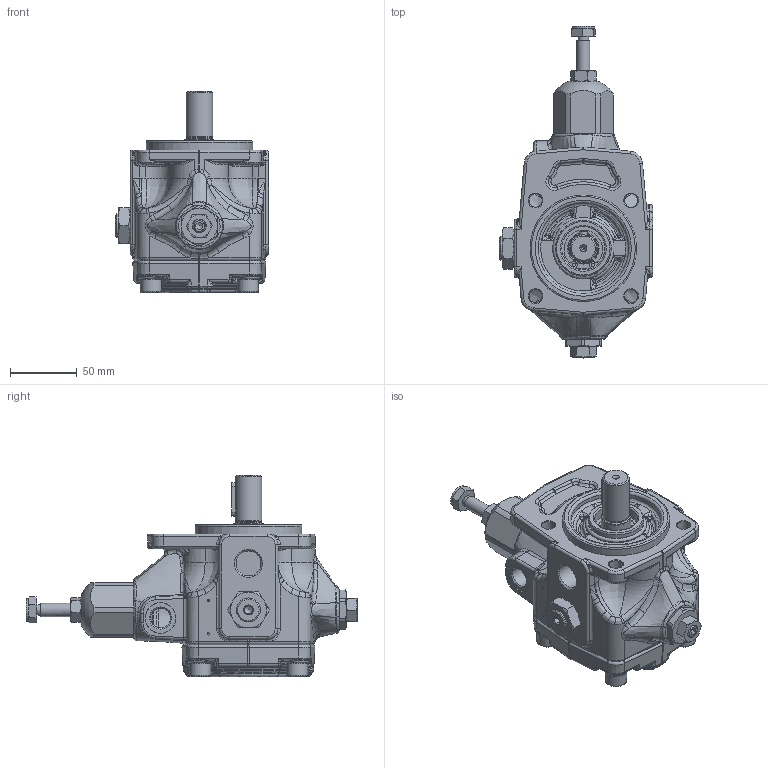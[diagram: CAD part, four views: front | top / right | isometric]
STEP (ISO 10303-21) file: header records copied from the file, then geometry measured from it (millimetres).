
FILE_DESCRIPTION(/* description */ (''),/* implementation_level */ '2;1');
FILE_NAME(/* name */ 'W:\Tecnico\Archivio\Berarma\Dimensioni Pompe\3D Export\Montaggio 3D semplificato\PLP-PHP 05\PLP05.stp',/* time_stamp */ '2018-10-10T11:54:28+02:00',/* author */ ('marcop'),/* organization */ (''),/* preprocessor_version */ 'ST-DEVELOPER v17',/* originating_system */ 'Autodesk Inventor 2018',/* authorisation */ '');
FILE_SCHEMA (('AUTOMOTIVE_DESIGN { 1 0 10303 214 3 1 1 }'));
Products named in the file (1): PLP05_Shrinkwrap_1
Bounding box: 115 x 249.15 x 151 mm (x, y, z)
Volume: 861547.5 mm3; surface area: 137850.2 mm2
Topology: 2 solids, 2 shells, 1405 faces, 3381 edges, 1936 vertices
Faces by surface type: cylinder 372, bspline 349, plane 314, torus 185, cone 141, sphere 44
Full cylindrical faces by diameter (mm): 1.7 x4, 2.5 x3, 6 x3, 8 x1, 8.376 x1, 8.5 x1, 8.8 x1, 10 x7, 14.95 x1, 15.2 x1, 16 x4, 16.376 x1, 17 x1, 18 x1, 18.631 x1, 19.5 x1, 20 x1, 22 x3, 23 x1, 24.117 x1, 25 x2, 30 x3, 32 x2, 32.5 x1, 41.5 x1, 46 x1, 68 x1, 80 x1
Entity records: 50848 total; most frequent: CARTESIAN_POINT 18848, ORIENTED_EDGE 6568, DIRECTION 6235, EDGE_CURVE 3284, AXIS2_PLACEMENT_3D 2632, VERTEX_POINT 1936, EDGE_LOOP 1474, CIRCLE 1426
